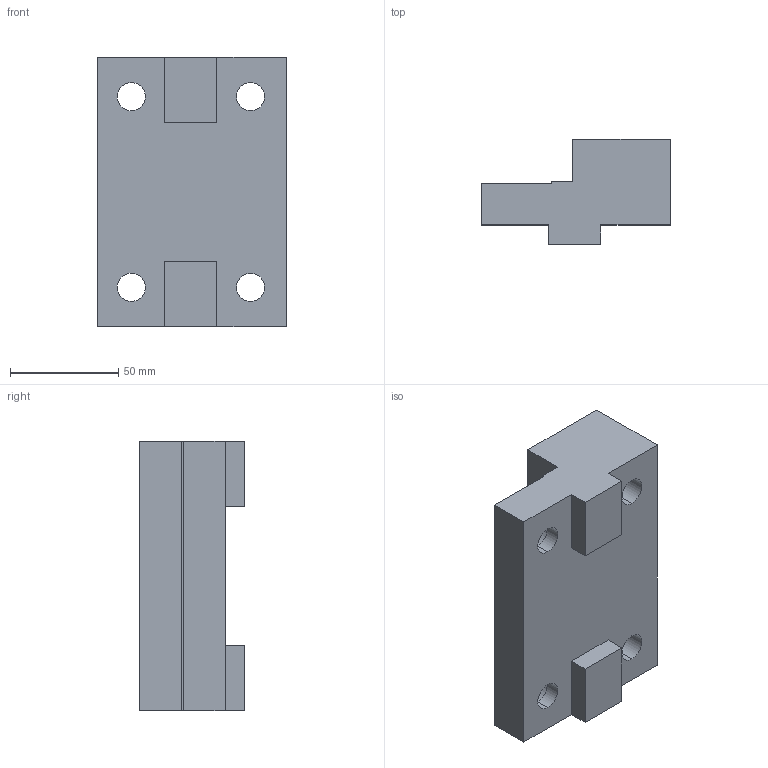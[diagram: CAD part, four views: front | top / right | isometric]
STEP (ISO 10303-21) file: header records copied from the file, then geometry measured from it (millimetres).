
FILE_DESCRIPTION (( 'STEP AP203' ), '1' );
FILE_NAME ('6921484006740.STEP', '2008-12-09T08:52:56', ( ' ' ), ( '' ), 'SwSTEP 2.0', 'SolidWorks 2008', '' );
FILE_SCHEMA (( 'CONFIG_CONTROL_DESIGN' ));
Length unit declared in the file: millimetre
Products named in the file (2): 6921484006740_Kundenmodell; 6921484006740
Assembly tree (1 placements, depth 2):
  6921484006740
    6921484006740_Kundenmodell
Bounding box: 87 x 48.5 x 124.4 mm (x, y, z)
Volume: 311733.7 mm3; surface area: 43239.3 mm2
Topology: 1 solids, 1 shells, 38 faces, 96 edges, 64 vertices
Faces by surface type: plane 22, cylinder 16
Entity records: 1364 total; most frequent: DIRECTION 212, CARTESIAN_POINT 202, ORIENTED_EDGE 192, EDGE_CURVE 96, AXIS2_PLACEMENT_3D 74, VERTEX_POINT 64, VECTOR 64, LINE 64
